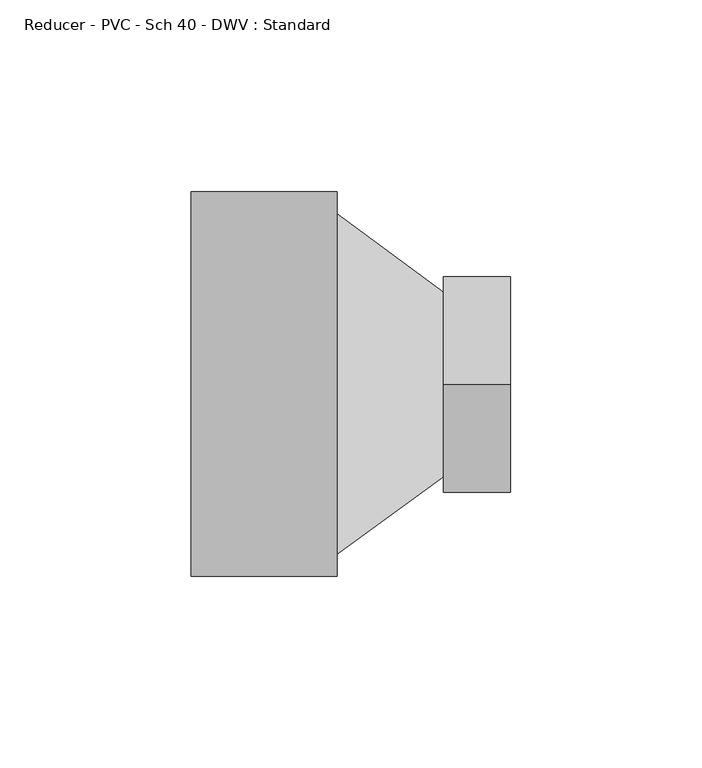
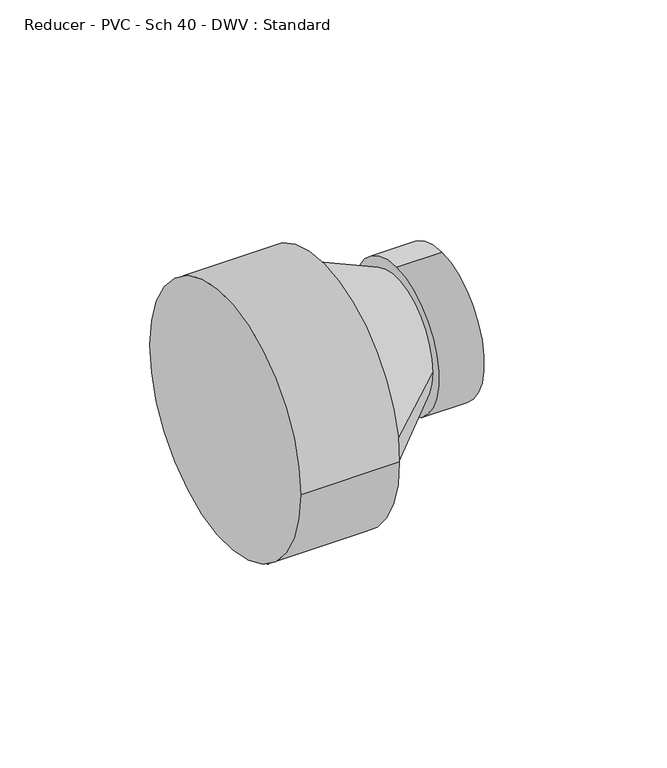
"""IFC4 building model written with IfcOpenShell, lengths in millimetres: pipe fitting geometry, Reducer - PVC - Sch 40 - DWV : Standard."""

import ifcopenshell
import ifcopenshell.guid

model = None  # the IFC model being written
_history = None  # IfcOwnerHistory: only IFC2X3 demands one
_inside = {}  # id of a spatial element -> (the spatial element, [elements in it])
_under = {}  # id of a project, library or spatial element -> (it, [spatial elements below it])
_declared = {}  # id of a project -> (the project, [libraries it declares])
_typed = {}  # id of a type object -> (the type object, [elements of that type])
_made_of = {}  # id of a material, layer set ... -> (it, [elements and type objects made of it])


def new_model(schema):
    """Start an empty IFC model of exactly this schema.

    Asked for "IFC4X3", IfcOpenShell would pick the latest addendum, in which some entities
    have other attributes; the version numbers below select the first issue.
    IFC2X3 requires an IfcOwnerHistory on every rooted entity: one is made here for all.
    """
    global model, _history
    if schema == "IFC4X3":
        model = ifcopenshell.file(schema_version=(4, 3, 0, 0))
    else:
        model = ifcopenshell.file(schema=schema)
    _inside.clear()
    _under.clear()
    _declared.clear()
    _typed.clear()
    _made_of.clear()
    _history = None
    if model.schema == "IFC2X3":
        org = make("IfcOrganization", Name="unknown")
        user = make(
            "IfcPersonAndOrganization",
            ThePerson=make("IfcPerson", FamilyName="unknown"),
            TheOrganization=org,
        )
        app = make(
            "IfcApplication",
            ApplicationDeveloper=org,
            Version="unknown",
            ApplicationFullName="unknown",
            ApplicationIdentifier="unknown",
        )
        _history = make(
            "IfcOwnerHistory",
            OwningUser=user,
            OwningApplication=app,
            ChangeAction="ADDED",
            CreationDate=0,
        )
    return model


def make(cls, **values):
    """One entity of the class cls with the attributes given. An attribute that is None is left unset."""
    return model.create_entity(
        cls, **{name: value for name, value in values.items() if value is not None}
    )


def rooted(cls, **values):
    """An entity with a GlobalId (a new one), such as an element, a storey or a relation."""
    return make(cls, GlobalId=ifcopenshell.guid.new(), OwnerHistory=_history, **values)


def si_unit(unit_type, name, prefix=None):
    """IfcSIUnit, for example si_unit("LENGTHUNIT", "METRE", prefix="MILLI")."""
    return make("IfcSIUnit", UnitType=unit_type, Prefix=prefix, Name=name)


def assignment(units):
    """IfcUnitAssignment: the units of a project."""
    return None if units is None else make("IfcUnitAssignment", Units=units)


def point(xyz):
    """IfcCartesianPoint."""
    return None if xyz is None else make("IfcCartesianPoint", Coordinates=xyz)


def direction(xyz):
    """IfcDirection."""
    return None if xyz is None else make("IfcDirection", DirectionRatios=xyz)


def frame(location, z_axis=None, x_axis=None):
    """IfcAxis2Placement3D, a coordinate frame: its origin and axes. An axis left out is left unset."""
    return make(
        "IfcAxis2Placement3D",
        Location=point(location),
        Axis=direction(z_axis),
        RefDirection=direction(x_axis),
    )


def origin():
    """The frame at (0, 0, 0) with its axes left unset."""
    return frame((0.0, 0.0, 0.0))


def place(relative_to, where):
    """IfcLocalPlacement: puts the frame where relative to a parent placement (None: the world)."""
    return make(
        "IfcLocalPlacement", PlacementRelTo=relative_to, RelativePlacement=where
    )


def context(
    kind, dimensions, precision=None, world=None, true_north=None, identifier=None
):
    """IfcGeometricRepresentationContext, for example the 3D "Model" context."""
    return make(
        "IfcGeometricRepresentationContext",
        ContextIdentifier=identifier,
        ContextType=kind,
        CoordinateSpaceDimension=dimensions,
        Precision=precision,
        WorldCoordinateSystem=world,
        TrueNorth=true_north,
    )


def project(units=None, contexts=None):
    """IfcProject with its units and contexts."""
    return rooted(
        "IfcProject",
        Name="project",
        RepresentationContexts=contexts,
        UnitsInContext=assignment(units),
    )


def spatial(cls, under=None, at=None, **own):
    """A site, building, storey or space (cls), placed at a placement, below another one or the project."""
    s = rooted(cls, ObjectPlacement=at, **own)
    if under is not None:
        _under.setdefault(under.id(), (under, []))[1].append(s)
    return s


def circle_curve(where, radius):
    """IfcCircle in the frame where."""
    return make("IfcCircle", Position=where, Radius=radius)


def shape(context_of_items, identifier, shape_type, items):
    """IfcShapeRepresentation: the items that make up one representation, for example the "Body"."""
    return make(
        "IfcShapeRepresentation",
        ContextOfItems=context_of_items,
        RepresentationIdentifier=identifier,
        RepresentationType=shape_type,
        Items=items,
    )


def source(mapping_origin, context_of_items, identifier, shape_type, items):
    """IfcRepresentationMap: a shape defined once, which mapped items show again and again."""
    return make(
        "IfcRepresentationMap",
        MappingOrigin=mapping_origin,
        MappedRepresentation=shape(context_of_items, identifier, shape_type, items),
    )


def transform(
    local_origin,
    x_axis=None,
    y_axis=None,
    z_axis=None,
    scale=None,
    scale2=None,
    scale3=None,
    uniform=True,
):
    """IfcCartesianTransformationOperator3D, or its non-uniform kind. x_axis, y_axis, z_axis: its Axis1, 2, 3."""
    if uniform:
        return make(
            "IfcCartesianTransformationOperator3D",
            Axis1=direction(x_axis),
            Axis2=direction(y_axis),
            LocalOrigin=point(local_origin),
            Scale=scale,
            Axis3=direction(z_axis),
        )
    return make(
        "IfcCartesianTransformationOperator3DnonUniform",
        Axis1=direction(x_axis),
        Axis2=direction(y_axis),
        LocalOrigin=point(local_origin),
        Scale=scale,
        Axis3=direction(z_axis),
        Scale2=scale2,
        Scale3=scale3,
    )


def mapped(mapping_source, mapping_target):
    """IfcMappedItem: shows the shape of a source again, moved by a transform."""
    return make(
        "IfcMappedItem", MappingSource=mapping_source, MappingTarget=mapping_target
    )


def made_of(thing, what):
    """Note that an element or type object is made of a material, layer set ...; save() writes the relation."""
    if what is not None:
        _made_of.setdefault(what.id(), (what, []))[1].append(thing)
    return thing


def element(
    cls,
    number,
    at=None,
    inside=None,
    cuts=None,
    type_object=None,
    material=None,
    context=None,
    identifier="Body",
    shape_type=None,
    held_by="IfcProductDefinitionShape",
    body=None,
    shapes=None,
    **own,
):
    """One element of the class cls, such as IfcWall. Its Tag is "e" and its number.

    at: its placement. inside: the storey or other place that contains it. cuts: it is an
    opening in that element (IfcRelVoidsElement). A single representation is given by context,
    identifier, shape_type and body (its items); several are given by shapes. held_by: the class
    of the entity that holds the representations. save() writes the other relations.
    """
    e = rooted(cls, Tag="e%d" % number, ObjectPlacement=at, **own)
    if body is not None:
        shapes = [shape(context, identifier, shape_type, body)]
    if shapes is not None:
        e.Representation = make(held_by, Representations=shapes)
    if inside is not None:
        _inside.setdefault(inside.id(), (inside, []))[1].append(e)
    if cuts is not None:
        rooted(
            "IfcRelVoidsElement", RelatingBuildingElement=cuts, RelatedOpeningElement=e
        )
    if type_object is not None:
        _typed.setdefault(type_object.id(), (type_object, []))[1].append(e)
    return made_of(e, material)


def aggregate(whole, parts):
    """IfcRelAggregates: a whole, such as a stair, and the parts it consists of."""
    return rooted("IfcRelAggregates", RelatingObject=whole, RelatedObjects=parts)


def save(model, path):
    """Write the relations noted so far, then the file.

    IfcRelAggregates (storeys below a building ...), IfcRelContainedInSpatialStructure (elements
    in a storey), IfcRelDefinesByType, IfcRelAssociatesMaterial and IfcRelDeclares: one each for
    every whole, place, type object, material and project.
    """
    for whole, parts in _under.values():
        aggregate(whole, parts)
    for where, things in _inside.values():
        rooted(
            "IfcRelContainedInSpatialStructure",
            RelatedElements=things,
            RelatingStructure=where,
        )
    for kind, things in _typed.values():
        rooted("IfcRelDefinesByType", RelatedObjects=things, RelatingType=kind)
    for what, things in _made_of.values():
        rooted("IfcRelAssociatesMaterial", RelatedObjects=things, RelatingMaterial=what)
    for by, libraries in _declared.values():
        rooted("IfcRelDeclares", RelatingContext=by, RelatedDefinitions=libraries)
    model.write(path)


def plane_surface(at):
    """IfcPlane: the flat surface through the origin of the frame at, square to its z axis."""
    return make("IfcPlane", Position=at)


def cylinder_surface(at, radius):
    """IfcCylindricalSurface: all points at the distance radius from the z axis of the frame at."""
    return make("IfcCylindricalSurface", Position=at, Radius=radius)


def spline_surface(u_degree, v_degree, points, u_multiplicities, v_multiplicities, u_knots, v_knots, weights=None):
    """IfcBSplineSurfaceWithKnots; with weights, IfcRationalBSplineSurfaceWithKnots. points: one row for each step in u."""
    own = dict(
        UDegree=u_degree,
        VDegree=v_degree,
        ControlPointsList=[[point(p) for p in row] for row in points],
        SurfaceForm="UNSPECIFIED",
        UClosed=False,
        VClosed=False,
        SelfIntersect=False,
        UMultiplicities=u_multiplicities,
        VMultiplicities=v_multiplicities,
        UKnots=u_knots,
        VKnots=v_knots,
        KnotSpec="UNSPECIFIED",
    )
    if weights is None:
        return make("IfcBSplineSurfaceWithKnots", **own)
    return make("IfcRationalBSplineSurfaceWithKnots", WeightsData=weights, **own)


def advanced_brep(points, edges, surfaces, faces):
    """IfcAdvancedBrep: a solid bounded by faces that lie on surfaces and meet in shared edges.

    An edge is (start, end): straight between two places in points (the first is 0);
    or (start, end, curve); or (start, end, curve, False) where it runs against its curve.
    A face is (place in surfaces, loops), or (place, loops, False) where it looks against
    its surface's normal. A loop lists edges by number (the first is 1), with a minus sign
    where the edge is run from its end to its start. The first loop is the outer one.
    """
    corners = [point(p) for p in points]
    vertices = [make("IfcVertexPoint", VertexGeometry=c) for c in corners]
    made = []
    for start, end, *more in edges:
        made.append(
            make(
                "IfcEdgeCurve",
                EdgeStart=vertices[start],
                EdgeEnd=vertices[end],
                EdgeGeometry=more[0] if more else make("IfcPolyline", Points=[corners[start], corners[end]]),
                SameSense=more[1] if len(more) > 1 else True,
            )
        )
    hull = []
    for where, loops, *sense in faces:
        bounds = []
        for j, loop in enumerate(loops):
            ring = [make("IfcOrientedEdge", EdgeElement=made[abs(k) - 1], Orientation=k > 0) for k in loop]
            bounds.append(
                make(
                    "IfcFaceOuterBound" if j == 0 else "IfcFaceBound",
                    Bound=make("IfcEdgeLoop", EdgeList=ring),
                    Orientation=True,
                )
            )
        hull.append(make("IfcAdvancedFace", Bounds=bounds, FaceSurface=surfaces[where], SameSense=sense[0] if sense else True))
    return make("IfcAdvancedBrep", Outer=make("IfcClosedShell", CfsFaces=hull))


def reducer_pvc_sch_40_dwv_standard_215a8765(model_context):
    return source(origin(), model_context, "Body", "AdvancedBrep", [
        advanced_brep(
        [(0.0, -50.2666, 0.0), (0.0, 50.2666, 0.0), (38.1, -50.2666, 0.0), (38.1, 50.2666, 0.0), (38.1, 44.45, 0.0), (38.1, -44.45, 0.0), (65.8876, 24.0166748, 10.8798091), (65.8876, -24.2433252, 10.8798091), (65.8876, -0.1133252, 39.1627091), (65.8876, -0.1133252, -17.4030909), (83.3374, -0.1133252, 39.1627091), (83.3374, -0.1133252, -17.4030909)],
        [
            (0, 1, circle_curve(frame((0.0, 0.0, 0.0), z_axis=(-1.0, 0.0, 0.0), x_axis=(0.0, 1.0, 0.0)), 50.2666)),
            (1, 0, circle_curve(frame((0.0, 0.0, 0.0), z_axis=(-1.0, 0.0, 0.0), x_axis=(0.0, 1.0, 0.0)), 50.2666)),
            (2, 3, circle_curve(frame((38.1, 0.0, 0.0), z_axis=(1.0, 0.0, 0.0), x_axis=(0.0, 1.0, 0.0)), 50.2666)),
            (3, 2, circle_curve(frame((38.1, 0.0, 0.0), z_axis=(1.0, 0.0, 0.0), x_axis=(0.0, 1.0, 0.0)), 50.2666)),
            (4, 5, circle_curve(frame((38.1, 0.0, 0.0), z_axis=(-1.0, 0.0, 0.0), x_axis=(0.0, 1.0, 0.0)), 44.45)),
            (5, 4, circle_curve(frame((38.1, 0.0, 0.0), z_axis=(-1.0, 0.0, 0.0), x_axis=(0.0, 1.0, 0.0)), 44.45)),
            (0, 2),
            (3, 1),
            (4, 6),
            (6, 7, circle_curve(frame((65.8876, -0.1133252, 10.8798091), z_axis=(-1.0, 0.0, 0.0), x_axis=(0.0, 1.0, 0.0)), 24.13)),
            (7, 5),
            (7, 6, circle_curve(frame((65.8876, -0.1133252, 10.8798091), z_axis=(-1.0, 0.0, 0.0), x_axis=(0.0, 1.0, 0.0)), 24.13)),
            (8, 9, circle_curve(frame((65.8876, -0.1133252, 10.8798091), z_axis=(-1.0, 0.0, 0.0), x_axis=(0.0, 0.0, -1.0)), 28.2829)),
            (9, 8, circle_curve(frame((65.8876, -0.1133252, 10.8798091), z_axis=(-1.0, 0.0, 0.0), x_axis=(0.0, 0.0, -1.0)), 28.2829)),
            (10, 11, circle_curve(frame((83.3374, -0.1133252, 10.8798091), z_axis=(1.0, 0.0, 0.0), x_axis=(0.0, 0.0, -1.0)), 28.2829)),
            (11, 10, circle_curve(frame((83.3374, -0.1133252, 10.8798091), z_axis=(1.0, 0.0, 0.0), x_axis=(0.0, 0.0, -1.0)), 28.2829)),
            (8, 10),
            (11, 9),
        ],
        [
            plane_surface(frame((0.0, 0.0, 0.0), z_axis=(-1.0, 0.0, 0.0), x_axis=(0.0, 0.0, 1.0))),
            plane_surface(frame((38.1, 0.0, 0.0), z_axis=(1.0, 0.0, 0.0), x_axis=(0.0, 0.0, 1.0))),
            cylinder_surface(frame((0.0, 0.0, 0.0), z_axis=(-1.0, 0.0, 0.0), x_axis=(0.0, 1.0, 0.0)), 50.2666),
            spline_surface(2, 1, [[(38.1, -44.45, 0.0), (65.8876, -24.2433252, 10.8798091)], [(38.1, -44.45, -44.45), (65.8876, -24.2433252, -13.250190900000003)], [(38.1, 0.0, -44.45), (65.8876, -0.1133252, -13.250190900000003)], [(38.1, 44.45, -44.45), (65.8876, 24.016674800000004, -13.250190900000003)], [(38.1, 44.45, 0.0), (65.8876, 24.0166748, 10.8798091)]], [3, 2, 3], [2, 2], [0.0, 1.0, 2.0], [0.0, 1.0], weights=[[1.0, 1.0], [0.7071067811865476, 0.7071067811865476], [1.0, 1.0], [0.7071067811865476, 0.7071067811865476], [1.0, 1.0]]),
            spline_surface(2, 1, [[(38.1, 44.45, 0.0), (65.8876, 24.0166748, 10.8798091)], [(38.1, 44.45, 44.45), (65.8876, 24.0166748, 35.0098091)], [(38.1, 0.0, 44.45), (65.8876, -0.1133252, 35.0098091)], [(38.1, -44.45, 44.45), (65.8876, -24.243325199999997, 35.0098091)], [(38.1, -44.45, 0.0), (65.8876, -24.2433252, 10.8798091)]], [3, 2, 3], [2, 2], [0.0, 1.0, 2.0], [0.0, 1.0], weights=[[1.0, 1.0], [0.7071067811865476, 0.7071067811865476], [1.0, 1.0], [0.7071067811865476, 0.7071067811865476], [1.0, 1.0]]),
            plane_surface(frame((65.8876, -0.1133252, 10.8798091), z_axis=(-1.0, 0.0, 0.0), x_axis=(0.0, 1.0, 0.0))),
            plane_surface(frame((83.3374, -0.1133252, 10.8798091), z_axis=(1.0, 0.0, 0.0), x_axis=(0.0, 1.0, 0.0))),
            cylinder_surface(frame((65.8876, -0.1133252, 10.8798091), z_axis=(-1.0, 0.0, 0.0), x_axis=(0.0, 0.0, -1.0)), 28.2829),
        ],
        [
            (0, [[1, 2]]),
            (1, [[3, 4], [5, 6]]),
            (2, [[-1, 7, -4, 8]]),
            (2, [[-2, -8, -3, -7]]),
            (3, [[9, 10, 11, -5]]),
            (4, [[-9, -6, -11, 12]]),
            (5, [[13, 14], [-10, -12]]),
            (6, [[15, 16]]),
            (7, [[-13, 17, -16, 18]]),
            (7, [[-14, -18, -15, -17]]),
        ],
    ),
    ])


if __name__ == "__main__":
    model = new_model("IFC4")
    model_context = context("Model", 3, world=origin())
    ifc_project = project(units=[si_unit("LENGTHUNIT", "METRE", prefix="MILLI")], contexts=[model_context])
    site = spatial("IfcSite", under=ifc_project)
    building = spatial("IfcBuilding", under=site)
    placement = place(None, origin())
    reducer_pvc_sch_40_dwv_standard_shape = reducer_pvc_sch_40_dwv_standard_215a8765(model_context)
    element("IfcPipeFitting", 1, ObjectType="Reducer - PVC - Sch 40 - DWV : Standard", at=placement, inside=building, context=model_context, shape_type="MappedRepresentation", body=[
        mapped(reducer_pvc_sch_40_dwv_standard_shape, transform((0.0, 0.0, 0.0), x_axis=(1.0, 0.0, 0.0), y_axis=(0.0, 1.0, 0.0), z_axis=(0.0, 0.0, 1.0))),
    ])
    save(model, "model.ifc")
